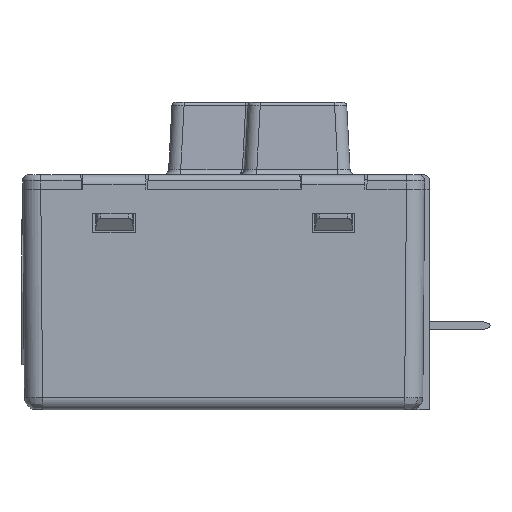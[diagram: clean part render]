
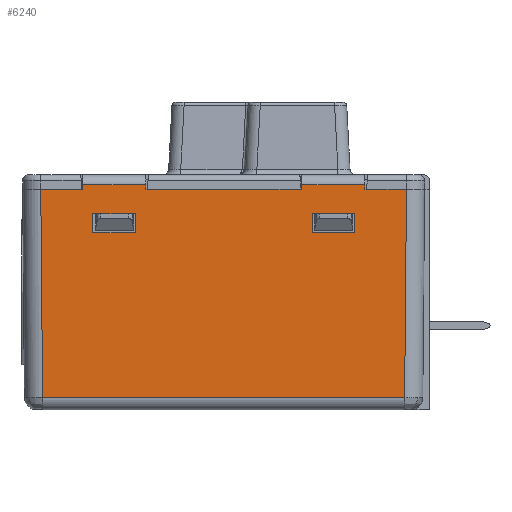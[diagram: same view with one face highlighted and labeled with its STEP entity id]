
A CAD part, left-side view. The second image highlights one B-rep face of the part: STEP entity #6240.
In plain terms, the highlighted planar face has unit normal (-1, 0, -0.009).
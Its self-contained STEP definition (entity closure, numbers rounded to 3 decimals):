
#1280=CARTESIAN_POINT('',(0.15,1.65,
0.991));
#1290=VERTEX_POINT('',#1280);
#1320=CARTESIAN_POINT('',(0.159,1.659,
-0.013));
#1330=DIRECTION('',(-0.009,-0.009,
1.));
#1340=VECTOR('',#1330,1.);
#1350=LINE('',#1320,#1340);
#1360=CARTESIAN_POINT('',(0.,1.5,18.2));
#1370=VERTEX_POINT('',#1360);
#1380=EDGE_CURVE('',#1290,#1370,#1350,.T.);
#1630=CARTESIAN_POINT('',(0.017,0.,16.2));
#1640=DIRECTION('',(0.,1.,0.));
#1650=VECTOR('',#1640,1.);
#1660=LINE('',#1630,#1650);
#1670=CARTESIAN_POINT('',(0.017,23.9,16.2));
#1680=VERTEX_POINT('',#1670);
#1690=CARTESIAN_POINT('',(0.017,27.4,16.2));
#1700=VERTEX_POINT('',#1690);
#1710=EDGE_CURVE('',#1680,#1700,#1660,.T.);
#4350=CARTESIAN_POINT('',(0.159,0.,0.001));
#4360=DIRECTION('',(-1.,0.,-0.009));
#4370=DIRECTION('',(0.,1.,0.));
#4380=AXIS2_PLACEMENT_3D('',#4350,#4360,#4370);
#4390=PLANE('',#4380);
#4400=CARTESIAN_POINT('',(0.031,0.,14.6));
#4410=DIRECTION('',(0.,-1.,0.));
#4420=VECTOR('',#4410,1.);
#4430=LINE('',#4400,#4420);
#4440=CARTESIAN_POINT('',(0.031,9.3,14.6));
#4450=VERTEX_POINT('',#4440);
#4460=CARTESIAN_POINT('',(0.031,5.8,14.6));
#4470=VERTEX_POINT('',#4460);
#4480=EDGE_CURVE('',#4450,#4470,#4430,.T.);
#4490=ORIENTED_EDGE('',*,*,#4480,.F.);
#4500=CARTESIAN_POINT('',(0.159,5.8,0.));
#4510=DIRECTION('',(0.009,0.,-1.));
#4520=VECTOR('',#4510,1.);
#4530=LINE('',#4500,#4520);
#4540=CARTESIAN_POINT('',(0.017,5.8,16.2));
#4550=VERTEX_POINT('',#4540);
#4560=EDGE_CURVE('',#4550,#4470,#4530,.T.);
#4570=ORIENTED_EDGE('',*,*,#4560,.T.);
#4580=CARTESIAN_POINT('',(0.017,0.,16.2));
#4590=DIRECTION('',(0.,1.,0.));
#4600=VECTOR('',#4590,1.);
#4610=LINE('',#4580,#4600);
#4620=CARTESIAN_POINT('',(0.017,9.3,16.2));
#4630=VERTEX_POINT('',#4620);
#4640=EDGE_CURVE('',#4550,#4630,#4610,.T.);
#4650=ORIENTED_EDGE('',*,*,#4640,.F.);
#4660=CARTESIAN_POINT('',(0.159,9.3,0.));
#4670=DIRECTION('',(-0.009,0.,1.));
#4680=VECTOR('',#4670,1.);
#4690=LINE('',#4660,#4680);
#4700=EDGE_CURVE('',#4450,#4630,#4690,.T.);
#4710=ORIENTED_EDGE('',*,*,#4700,.T.);
#4720=EDGE_LOOP('',(#4710,#4650,#4570,#4490));
#4730=FACE_BOUND('',#4720,.T.);
#4740=CARTESIAN_POINT('',(0.159,27.4,0.));
#4750=DIRECTION('',(-0.009,0.,1.));
#4760=VECTOR('',#4750,1.);
#4770=LINE('',#4740,#4760);
#4780=CARTESIAN_POINT('',(0.031,27.4,14.6));
#4790=VERTEX_POINT('',#4780);
#4800=EDGE_CURVE('',#4790,#1700,#4770,.T.);
#4810=ORIENTED_EDGE('',*,*,#4800,.T.);
#4820=CARTESIAN_POINT('',(0.031,0.,14.6));
#4830=DIRECTION('',(0.,-1.,0.));
#4840=VECTOR('',#4830,1.);
#4850=LINE('',#4820,#4840);
#4860=CARTESIAN_POINT('',(0.031,23.9,14.6));
#4870=VERTEX_POINT('',#4860);
#4880=EDGE_CURVE('',#4790,#4870,#4850,.T.);
#4890=ORIENTED_EDGE('',*,*,#4880,.F.);
#4900=CARTESIAN_POINT('',(0.159,23.9,0.));
#4910=DIRECTION('',(0.009,0.,-1.));
#4920=VECTOR('',#4910,1.);
#4930=LINE('',#4900,#4920);
#4940=EDGE_CURVE('',#1680,#4870,#4930,.T.);
#4950=ORIENTED_EDGE('',*,*,#4940,.T.);
#4960=ORIENTED_EDGE('',*,*,#1710,.F.);
#4970=EDGE_LOOP('',(#4960,#4950,#4890,#4810));
#4980=FACE_BOUND('',#4970,.T.);
#4990=CARTESIAN_POINT('',(0.159,31.541,
-0.013));
#5000=DIRECTION('',(0.009,-0.009,
-1.));
#5010=VECTOR('',#5000,1.);
#5020=LINE('',#4990,#5010);
#5030=CARTESIAN_POINT('',(0.,31.7,18.2));
#5040=VERTEX_POINT('',#5030);
#5050=CARTESIAN_POINT('',(0.15,31.55,
0.991));
#5060=VERTEX_POINT('',#5050);
#5070=EDGE_CURVE('',#5040,#5060,#5020,.T.);
#5080=ORIENTED_EDGE('',*,*,#5070,.T.);
#5090=CARTESIAN_POINT('',(0.,0.,18.2));
#5100=DIRECTION('',(0.,-1.,0.));
#5110=VECTOR('',#5100,1.);
#5120=LINE('',#5090,#5110);
#5130=CARTESIAN_POINT('',(0.,31.7,18.2));
#5140=VERTEX_POINT('',#5130);
#5150=EDGE_CURVE('',#5040,#5140,#5120,.T.);
#5160=ORIENTED_EDGE('',*,*,#5150,.F.);
#5170=CARTESIAN_POINT('',(0.,28.3,18.2));
#5180=VERTEX_POINT('',#5170);
#5190=EDGE_CURVE('',#5140,#5180,#5120,.T.);
#5200=ORIENTED_EDGE('',*,*,#5190,.F.);
#5210=CARTESIAN_POINT('',(0.,0.,18.2));
#5220=DIRECTION('',(0.,-1.,0.));
#5230=VECTOR('',#5220,1.);
#5240=LINE('',#5210,#5230);
#5250=CARTESIAN_POINT('',(0.,28.25,18.2));
#5260=VERTEX_POINT('',#5250);
#5270=EDGE_CURVE('',#5180,#5260,#5240,.T.);
#5280=ORIENTED_EDGE('',*,*,#5270,.F.);
#5290=CARTESIAN_POINT('',(0.159,28.25,0.));
#5300=DIRECTION('',(-0.009,0.,1.));
#5310=VECTOR('',#5300,1.);
#5320=LINE('',#5290,#5310);
#5330=CARTESIAN_POINT('',(-0.003,28.25,18.593));
#5340=VERTEX_POINT('',#5330);
#5350=EDGE_CURVE('',#5260,#5340,#5320,.T.);
#5360=ORIENTED_EDGE('',*,*,#5350,.F.);
#5370=CARTESIAN_POINT('',(-0.003,0.,18.593));
#5380=DIRECTION('',(0.,1.,0.));
#5390=VECTOR('',#5380,1.);
#5400=LINE('',#5370,#5390);
#5410=CARTESIAN_POINT('',(-0.003,23.05,18.593));
#5420=VERTEX_POINT('',#5410);
#5430=EDGE_CURVE('',#5420,#5340,#5400,.T.);
#5440=ORIENTED_EDGE('',*,*,#5430,.T.);
#5450=CARTESIAN_POINT('',(0.159,23.05,0.));
#5460=DIRECTION('',(0.009,0.,-1.));
#5470=VECTOR('',#5460,1.);
#5480=LINE('',#5450,#5470);
#5490=CARTESIAN_POINT('',(0.,23.05,18.2));
#5500=VERTEX_POINT('',#5490);
#5510=EDGE_CURVE('',#5420,#5500,#5480,.T.);
#5520=ORIENTED_EDGE('',*,*,#5510,.F.);
#5530=CARTESIAN_POINT('',(0.,0.,18.2));
#5540=DIRECTION('',(0.,-1.,0.));
#5550=VECTOR('',#5540,1.);
#5560=LINE('',#5530,#5550);
#5570=CARTESIAN_POINT('',(0.,22.9,18.2));
#5580=VERTEX_POINT('',#5570);
#5590=EDGE_CURVE('',#5500,#5580,#5560,.T.);
#5600=ORIENTED_EDGE('',*,*,#5590,.F.);
#5610=CARTESIAN_POINT('',(0.,0.,18.2));
#5620=DIRECTION('',(0.,-1.,0.));
#5630=VECTOR('',#5620,1.);
#5640=LINE('',#5610,#5630);
#5650=CARTESIAN_POINT('',(0.,10.2,18.2));
#5660=VERTEX_POINT('',#5650);
#5670=EDGE_CURVE('',#5580,#5660,#5640,.T.);
#5680=ORIENTED_EDGE('',*,*,#5670,.F.);
#5690=CARTESIAN_POINT('',(0.,10.15,18.2));
#5700=VERTEX_POINT('',#5690);
#5710=EDGE_CURVE('',#5660,#5700,#5560,.T.);
#5720=ORIENTED_EDGE('',*,*,#5710,.F.);
#5730=CARTESIAN_POINT('',(0.159,10.468,0.));
#5740=DIRECTION('',(0.009,0.017,
-1.));
#5750=VECTOR('',#5740,1.);
#5760=LINE('',#5730,#5750);
#5770=CARTESIAN_POINT('',(-0.003,10.143,
18.593));
#5780=VERTEX_POINT('',#5770);
#5790=EDGE_CURVE('',#5780,#5700,#5760,.T.);
#5800=ORIENTED_EDGE('',*,*,#5790,.T.);
#5810=CARTESIAN_POINT('',(-0.003,0.,18.593));
#5820=DIRECTION('',(0.,1.,0.));
#5830=VECTOR('',#5820,1.);
#5840=LINE('',#5810,#5830);
#5850=CARTESIAN_POINT('',(-0.003,4.957,
18.593));
#5860=VERTEX_POINT('',#5850);
#5870=EDGE_CURVE('',#5860,#5780,#5840,.T.);
#5880=ORIENTED_EDGE('',*,*,#5870,.T.);
#5890=CARTESIAN_POINT('',(0.159,4.632,0.));
#5900=DIRECTION('',(-0.009,0.017,
1.));
#5910=VECTOR('',#5900,1.);
#5920=LINE('',#5890,#5910);
#5930=CARTESIAN_POINT('',(0.,4.95,18.2));
#5940=VERTEX_POINT('',#5930);
#5950=EDGE_CURVE('',#5940,#5860,#5920,.T.);
#5960=ORIENTED_EDGE('',*,*,#5950,.T.);
#5970=CARTESIAN_POINT('',(0.,0.,18.2));
#5980=DIRECTION('',(0.,-1.,0.));
#5990=VECTOR('',#5980,1.);
#6000=LINE('',#5970,#5990);
#6010=CARTESIAN_POINT('',(0.,4.8,18.2));
#6020=VERTEX_POINT('',#6010);
#6030=EDGE_CURVE('',#5940,#6020,#6000,.T.);
#6040=ORIENTED_EDGE('',*,*,#6030,.F.);
#6050=CARTESIAN_POINT('',(0.,0.,18.2));
#6060=DIRECTION('',(0.,-1.,0.));
#6070=VECTOR('',#6060,1.);
#6080=LINE('',#6050,#6070);
#6090=CARTESIAN_POINT('',(0.,1.5,18.2));
#6100=VERTEX_POINT('',#6090);
#6110=EDGE_CURVE('',#6020,#6100,#6080,.T.);
#6120=ORIENTED_EDGE('',*,*,#6110,.F.);
#6130=EDGE_CURVE('',#6100,#1370,#6080,.T.);
#6140=ORIENTED_EDGE('',*,*,#6130,.F.);
#6150=ORIENTED_EDGE('',*,*,#1380,.T.);
#6160=CARTESIAN_POINT('',(0.15,0.,0.991));
#6170=DIRECTION('',(0.,-1.,0.));
#6180=VECTOR('',#6170,1.);
#6190=LINE('',#6160,#6180);
#6200=EDGE_CURVE('',#5060,#1290,#6190,.T.);
#6210=ORIENTED_EDGE('',*,*,#6200,.T.);
#6220=EDGE_LOOP('',(#6210,#6150,#6140,#6120,#6040,#5960,#5880,#5800,
#5720,#5680,#5600,#5520,#5440,#5360,#5280,#5200,#5160,#5080));
#6230=FACE_OUTER_BOUND('',#6220,.T.);
#6240=ADVANCED_FACE('',(#4730,#4980,#6230),#4390,.T.);
